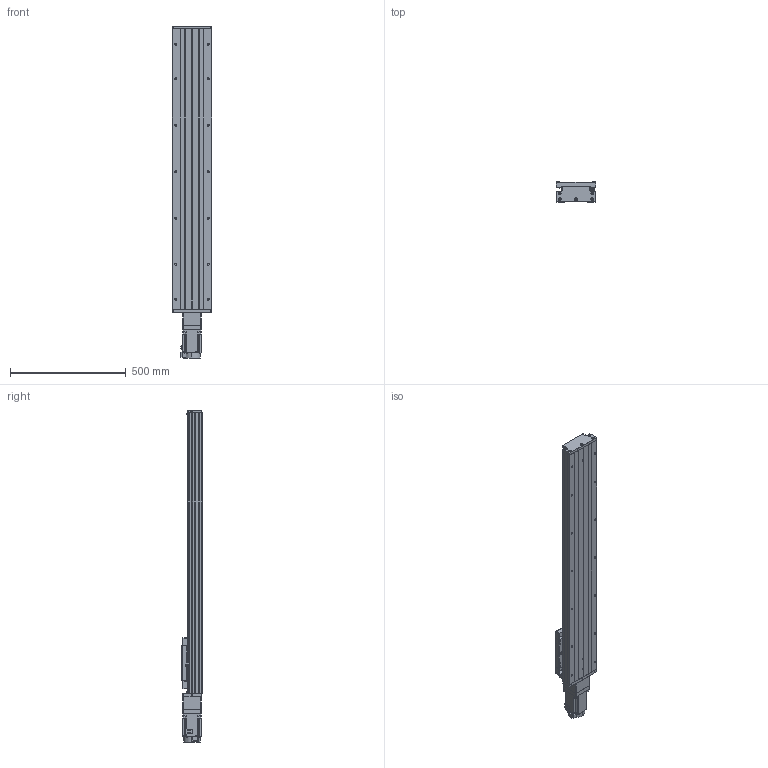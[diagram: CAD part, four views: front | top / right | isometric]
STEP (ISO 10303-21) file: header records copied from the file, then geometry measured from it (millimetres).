
FILE_DESCRIPTION (( 'STEP AP203' ), '1' );
FILE_NAME ('GTH17-950-BC-M75-C4.step', '2023-06-30T11:23:34', ( '微软用户' ), ( '微软中国' ), 'SwSTEP 2.0', 'SolidWorks 2020', '' );
FILE_SCHEMA (( 'CONFIG_CONTROL_DESIGN' ));
Length unit declared in the file: millimetre
Products named in the file (20): CTHA60-016; GBT 70.3-M3℅8; GTH17-002_GTH17-002; GBT 70.1-M3℅5; GTH17-006-2_M75; GTH17-004; GBT77-2000 M3×3; GTH17-013; GTH17-005; GBT 70.1-M6¡Á20_M6¡Á20; GTH17-027-1; GB1155-6X6; GTH17-031; HG-KN73J-S100; CTHA60-017; GBT 70.2-M3¡Á5_M3¡Á6; GTH17-950-BC-M75-C4; EE_SX911P_R; す晦芛蹟隊 M3℅5; GTH17-001_950
Assembly tree (57 placements, depth 2):
  GTH17-950-BC-M75-C4
    GTH17-001_950
    GTH17-002_GTH17-002
    GTH17-004
    GTH17-005
    GB1155-6X6  x2
    CTHA60-017  x3
    EE_SX911P_R  x3
    CTHA60-016  x2
    GBT 70.1-M3℅5  x6
    GBT77-2000 M3×3  x6
    GBT 70.1-M6¡Á20_M6¡Á20  x10
    GTH17-031
    GBT 70.2-M3¡Á5_M3¡Á6  x8
    す晦芛蹟隊 M3℅5  x6
    GBT 70.3-M3℅8  x2
    GTH17-006-2_M75
    GTH17-013
    GTH17-027-1
    HG-KN73J-S100
Bounding box: 171 x 87 x 1431.2 mm (x, y, z)
Volume: 10762157.6 mm3; surface area: 1362866.5 mm2
Topology: 60 solids, 60 shells, 2424 faces, 5797 edges, 3595 vertices
Faces by surface type: plane 1307, cylinder 670, cone 287, torus 120, sphere 20, bspline 20
Entity records: 45453 total; most frequent: CARTESIAN_POINT 10477, DIRECTION 6597, ORIENTED_EDGE 6510, EDGE_CURVE 3255, AXIS2_PLACEMENT_3D 2249, LINE 2099, VECTOR 2099, VERTEX_POINT 2063
